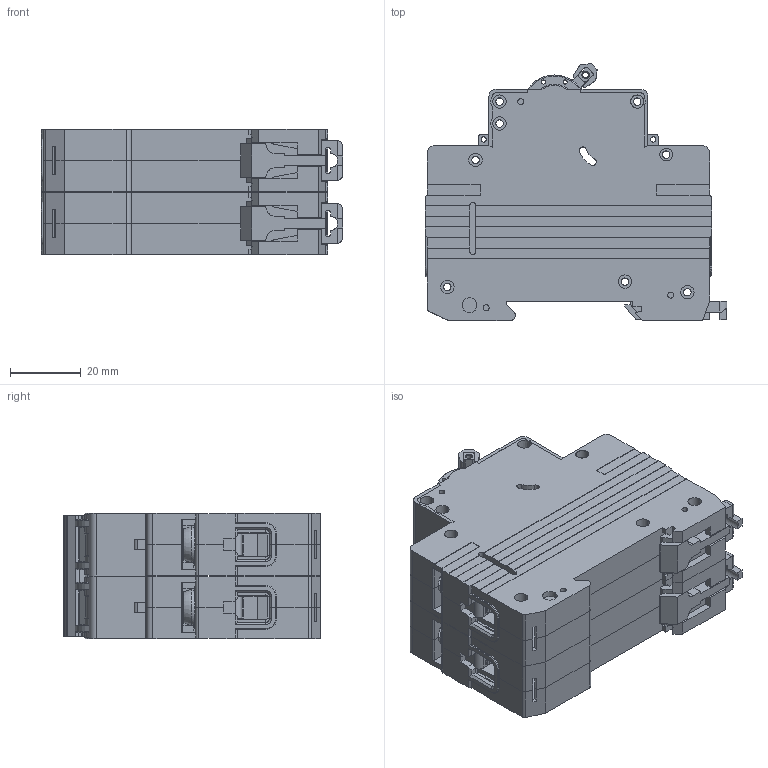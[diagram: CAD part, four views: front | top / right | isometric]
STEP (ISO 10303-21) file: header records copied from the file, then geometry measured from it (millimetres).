
FILE_DESCRIPTION (( 'STEP AP214' ), '1' );
FILE_NAME ('OptiDin 蟯63 4,5篔 - 2 瀁錌黟.STEP', '2022-11-18T07:50:26', ( '' ), ( '' ), 'SwSTEP 2.0', 'SolidWorks 2018', '' );
FILE_SCHEMA (( 'AUTOMOTIVE_DESIGN' ));
Length unit declared in the file: millimetre
Products named in the file (10): ________ ______ 041.step.STEP; 蟯63 4,5篔.STEP_1; _____ ____.753725.004.step.STEP; _____ ____.745315.008.step.STEP; ____ ____.758151.057.step.STEP; _______ ____.745418.015.step.STEP; ________ _____ 042.step.STEP; OptiDin 蟯63 4,5篔 - 2 瀁錌黟; Çàù¸ëêà ÃÆÈÊ.741358.031.step; Ñêîáà ÃÆÈÊ.746442.003.step
Assembly tree (14 placements, depth 3):
  OptiDin 蟯63 4,5篔 - 2 瀁錌黟
    蟯63 4,5篔.STEP_1  x2
      ________ ______ 041.step.STEP
      ________ _____ 042.step.STEP
      _____ ____.745315.008.step.STEP
      ____ ____.758151.057.step.STEP
      _______ ____.745418.015.step.STEP
      _____ ____.753725.004.step.STEP
    Çàù¸ëêà ÃÆÈÊ.741358.031.step  x2
    Ñêîáà ÃÆÈÊ.746442.003.step
Bounding box: 85.5 x 72.85 x 35.6 mm (x, y, z)
Volume: 59319.1 mm3; surface area: 81555.7 mm2
Topology: 21 solids, 21 shells, 3331 faces, 9043 edges, 5840 vertices
Faces by surface type: plane 2208, cylinder 1009, cone 74, torus 28, bspline 8, sphere 4
Entity records: 51962 total; most frequent: CARTESIAN_POINT 8211, ORIENTED_EDGE 7758, DIRECTION 7635, EDGE_CURVE 3879, VECTOR 2835, LINE 2835, VERTEX_POINT 2519, AXIS2_PLACEMENT_3D 2400
